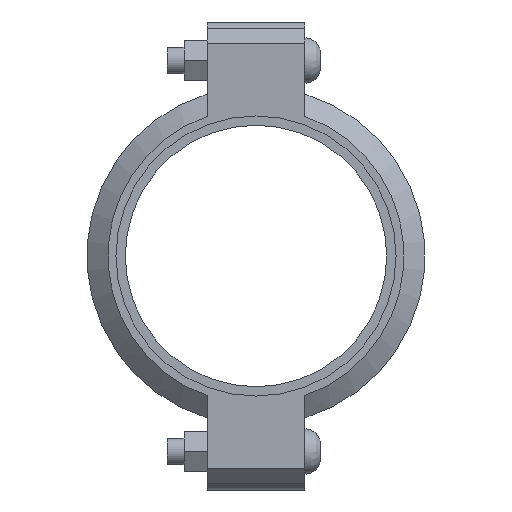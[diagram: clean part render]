
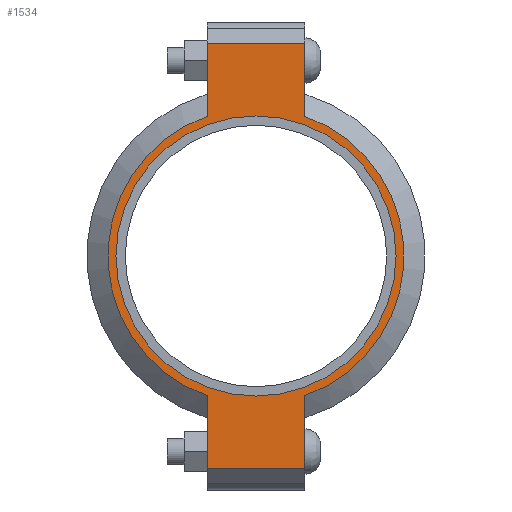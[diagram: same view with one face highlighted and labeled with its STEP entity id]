
A CAD part, left-side view. The second image highlights one B-rep face of the part: STEP entity #1534.
In plain terms, the highlighted planar face has unit normal (-1, 0, 0) as drawn and (0, 0, 1) by its records, which use the part's own axes.
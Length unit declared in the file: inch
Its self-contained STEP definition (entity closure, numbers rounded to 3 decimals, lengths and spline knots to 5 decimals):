
#158=LINE('',#2686,#251);
#166=LINE('',#2722,#259);
#173=LINE('',#2743,#266);
#182=LINE('',#2775,#275);
#183=LINE('',#2779,#276);
#184=LINE('',#2781,#277);
#251=VECTOR('',#2194,0.3937);
#259=VECTOR('',#2210,0.3937);
#266=VECTOR('',#2229,0.3937);
#275=VECTOR('',#2254,0.3937);
#276=VECTOR('',#2259,0.3937);
#277=VECTOR('',#2260,0.3937);
#333=FACE_BOUND('',#511,.T.);
#405=FACE_OUTER_BOUND('',#510,.T.);
#510=EDGE_LOOP('',(#1275,#1276,#1277,#1278,#1279,#1280,#1281,#1282));
#511=EDGE_LOOP('',(#1283));
#583=CIRCLE('',#1762,3.3125);
#609=CIRCLE('',#1821,3.5);
#610=CIRCLE('',#1822,3.5);
#675=VERTEX_POINT('',#2502);
#718=VERTEX_POINT('',#2683);
#719=VERTEX_POINT('',#2685);
#730=VERTEX_POINT('',#2717);
#731=VERTEX_POINT('',#2721);
#738=VERTEX_POINT('',#2740);
#739=VERTEX_POINT('',#2742);
#749=VERTEX_POINT('',#2778);
#750=VERTEX_POINT('',#2780);
#831=EDGE_CURVE('',#675,#675,#583,.T.);
#892=EDGE_CURVE('',#719,#718,#158,.T.);
#906=EDGE_CURVE('',#731,#730,#166,.T.);
#916=EDGE_CURVE('',#739,#738,#173,.T.);
#931=EDGE_CURVE('',#731,#718,#182,.T.);
#932=EDGE_CURVE('',#730,#739,#609,.T.);
#933=EDGE_CURVE('',#749,#738,#183,.T.);
#934=EDGE_CURVE('',#749,#750,#184,.T.);
#935=EDGE_CURVE('',#750,#719,#610,.T.);
#1275=ORIENTED_EDGE('',*,*,#931,.F.);
#1276=ORIENTED_EDGE('',*,*,#906,.T.);
#1277=ORIENTED_EDGE('',*,*,#932,.T.);
#1278=ORIENTED_EDGE('',*,*,#916,.T.);
#1279=ORIENTED_EDGE('',*,*,#933,.F.);
#1280=ORIENTED_EDGE('',*,*,#934,.T.);
#1281=ORIENTED_EDGE('',*,*,#935,.T.);
#1282=ORIENTED_EDGE('',*,*,#892,.T.);
#1283=ORIENTED_EDGE('',*,*,#831,.T.);
#1376=PLANE('',#1820);
#1534=ADVANCED_FACE('',(#405,#333),#1376,.T.);
#1762=AXIS2_PLACEMENT_3D('',#2504,#2070,#2071);
#1820=AXIS2_PLACEMENT_3D('',#2776,#2255,#2256);
#1821=AXIS2_PLACEMENT_3D('',#2777,#2257,#2258);
#1822=AXIS2_PLACEMENT_3D('',#2782,#2261,#2262);
#2070=DIRECTION('center_axis',(0.,0.,-1.));
#2071=DIRECTION('ref_axis',(1.,0.,0.));
#2194=DIRECTION('',(1.,0.,0.));
#2210=DIRECTION('',(-1.,0.,0.));
#2229=DIRECTION('',(-1.,0.,0.));
#2254=DIRECTION('',(0.,-1.,0.));
#2255=DIRECTION('center_axis',(0.,0.,1.));
#2256=DIRECTION('ref_axis',(-1.,0.,0.));
#2257=DIRECTION('center_axis',(0.,0.,1.));
#2258=DIRECTION('ref_axis',(1.,0.,0.));
#2259=DIRECTION('',(0.,1.,0.));
#2260=DIRECTION('',(1.,0.,0.));
#2261=DIRECTION('center_axis',(0.,0.,1.));
#2262=DIRECTION('ref_axis',(1.,0.,0.));
#2502=CARTESIAN_POINT('',(-3.3125,0.,1.065));
#2504=CARTESIAN_POINT('Origin',(0.,0.,1.065));
#2683=CARTESIAN_POINT('',(5.035,-1.156,1.065));
#2685=CARTESIAN_POINT('',(3.30358,-1.156,1.065));
#2686=CARTESIAN_POINT('',(5.535,-1.156,1.065));
#2717=CARTESIAN_POINT('',(3.30358,1.156,1.065));
#2721=CARTESIAN_POINT('',(5.035,1.156,1.065));
#2722=CARTESIAN_POINT('',(-5.535,1.156,1.065));
#2740=CARTESIAN_POINT('',(-5.035,1.156,1.065));
#2742=CARTESIAN_POINT('',(-3.30358,1.156,1.065));
#2743=CARTESIAN_POINT('',(-5.535,1.156,1.065));
#2775=CARTESIAN_POINT('',(5.035,-0.578,1.065));
#2776=CARTESIAN_POINT('Origin',(0.,0.,
1.065));
#2777=CARTESIAN_POINT('Origin',(0.,0.,1.065));
#2778=CARTESIAN_POINT('',(-5.035,-1.156,1.065));
#2779=CARTESIAN_POINT('',(-5.035,0.578,1.065));
#2780=CARTESIAN_POINT('',(-3.30358,-1.156,1.065));
#2781=CARTESIAN_POINT('',(5.535,-1.156,1.065));
#2782=CARTESIAN_POINT('Origin',(0.,0.,1.065));
